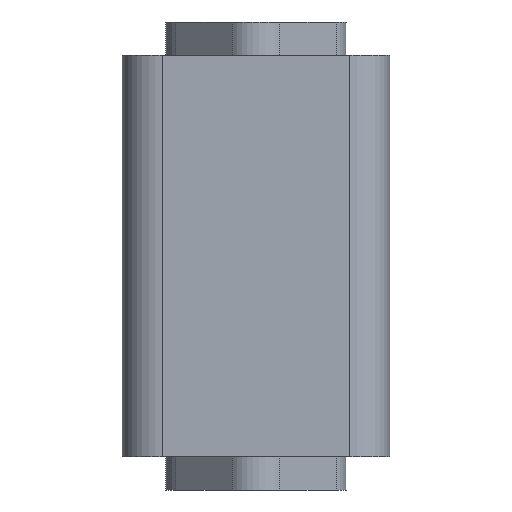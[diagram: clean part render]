
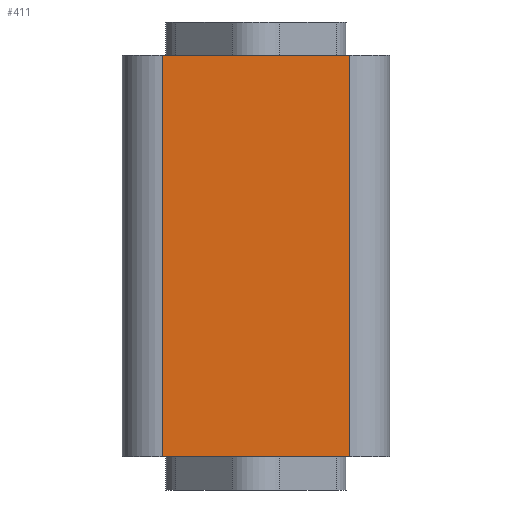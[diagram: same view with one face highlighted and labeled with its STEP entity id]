
A CAD part, front view. The second image highlights one B-rep face of the part: STEP entity #411.
In plain terms, the highlighted planar face has unit normal (0, -1, 0).
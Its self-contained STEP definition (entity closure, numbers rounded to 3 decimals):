
#346=CARTESIAN_POINT('',(7.,-10.,30.0));
#347=VERTEX_POINT('',#346);
#355=CARTESIAN_POINT('',(7.,-10.,0.0));
#356=VERTEX_POINT('',#355);
#357=CARTESIAN_POINT('',(7.,-10.,0.0));
#358=DIRECTION('',(0.0,0.0,1.0));
#359=VECTOR('',#358,30.0);
#360=LINE('',#357,#359);
#361=EDGE_CURVE('',#356,#347,#360,.T.);
#381=CARTESIAN_POINT('',(7.,-10.,0.0));
#382=DIRECTION('',(0.0,-1.0,0.0));
#383=DIRECTION('',(0.0,0.0,-1.0));
#384=AXIS2_PLACEMENT_3D('',#381,#382,#383);
#385=PLANE('',#384);
#386=CARTESIAN_POINT('',(-7.,-10.,30.0));
#387=VERTEX_POINT('',#386);
#388=CARTESIAN_POINT('',(7.,-10.,30.0));
#389=DIRECTION('',(-1.0,0.0,0.0));
#390=VECTOR('',#389,14.);
#391=LINE('',#388,#390);
#392=EDGE_CURVE('',#347,#387,#391,.T.);
#393=ORIENTED_EDGE('',*,*,#392,.T.);
#394=CARTESIAN_POINT('',(-7.,-10.,0.0));
#395=VERTEX_POINT('',#394);
#396=CARTESIAN_POINT('',(-7.,-10.,0.0));
#397=DIRECTION('',(0.0,0.0,1.0));
#398=VECTOR('',#397,30.0);
#399=LINE('',#396,#398);
#400=EDGE_CURVE('',#395,#387,#399,.T.);
#401=ORIENTED_EDGE('',*,*,#400,.F.);
#402=CARTESIAN_POINT('',(-7.,-10.,0.0));
#403=DIRECTION('',(1.0,0.0,0.0));
#404=VECTOR('',#403,14.);
#405=LINE('',#402,#404);
#406=EDGE_CURVE('',#395,#356,#405,.T.);
#407=ORIENTED_EDGE('',*,*,#406,.T.);
#408=ORIENTED_EDGE('',*,*,#361,.T.);
#409=EDGE_LOOP('',(#393,#401,#407,#408));
#410=FACE_OUTER_BOUND('',#409,.T.);
#411=ADVANCED_FACE('',(#410),#385,.T.);
